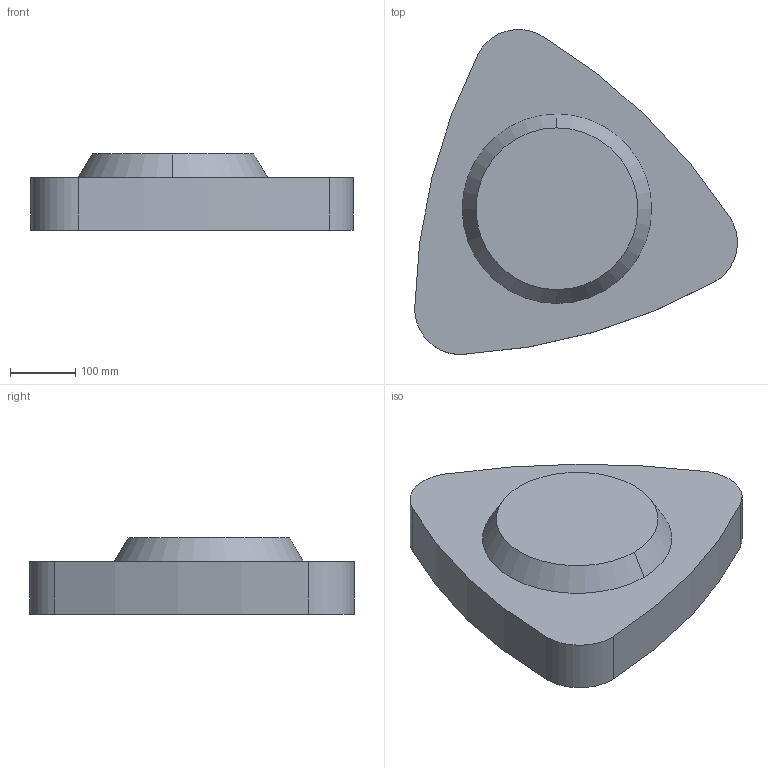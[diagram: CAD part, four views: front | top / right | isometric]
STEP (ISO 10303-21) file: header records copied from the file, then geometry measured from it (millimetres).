
FILE_DESCRIPTION(('Creo Elements/Direct Modeling STEP Export'),'2;1');
FILE_NAME('RON LED DIREKT 510.stp','2016-04-05T14:19:40',(''),(''),'Creo Elements/Direct Modeling STEP processor for AP214 (Solid Model)','Creo Elements/Direct Modeling 18.1A 09-Jun-2012 (C) Parametric Technology GmbH','');
FILE_SCHEMA(('AUTOMOTIVE_DESIGN { 1 0 10303 214 1 1 1 1 }'));
Length unit declared in the file: millimetre
Products named in the file (2): RON_LED_LEUCHTENKÖRPER; RON_LED_510
Assembly tree (1 placements, depth 2):
  RON_LED_510
    RON_LED_LEUCHTENKÖRPER
Bounding box: 495.43 x 498.82 x 116.8 mm (x, y, z)
Volume: 13647437 mm3; surface area: 625374.3 mm2
Topology: 1 solids, 2 shells, 15 faces, 30 edges, 20 vertices
Faces by surface type: cylinder 6, plane 5, cone 4
Entity records: 422 total; most frequent: DIRECTION 74, CARTESIAN_POINT 62, ORIENTED_EDGE 60, AXIS2_PLACEMENT_3D 32, EDGE_CURVE 30, VERTEX_POINT 20, CIRCLE 16, EDGE_LOOP 16
